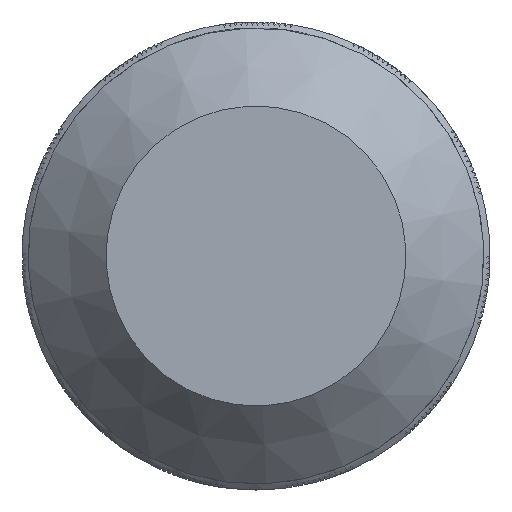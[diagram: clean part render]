
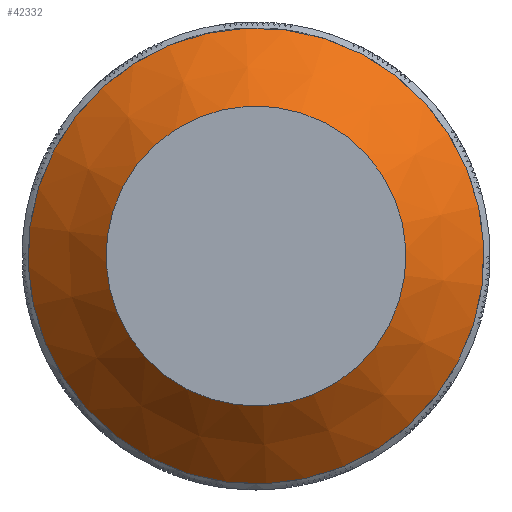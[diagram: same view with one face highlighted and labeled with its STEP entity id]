
A CAD part, left-side view. The second image highlights one B-rep face of the part: STEP entity #42332.
In plain terms, the highlighted conical face has half-angle 45 degrees and reference radius 31.5 mm.
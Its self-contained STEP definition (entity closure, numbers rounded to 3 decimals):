
#42305=CARTESIAN_POINT('',(-24.19,-15.041,0.));
#42306=DIRECTION('',(1.0,0.,0.));
#42307=DIRECTION('',(0.,0.976,-0.218));
#42308=AXIS2_PLACEMENT_3D('',#42305,#42306,#42307);
#42309=CONICAL_SURFACE('',#42308,31.5,45.);
#42310=CARTESIAN_POINT('',(-17.69,22.049,-8.268));
#42311=VERTEX_POINT('',#42310);
#42312=CARTESIAN_POINT('',(-17.69,-15.041,0.));
#42313=DIRECTION('',(1.0,0.,0.));
#42314=DIRECTION('',(0.,0.976,-0.218));
#42315=AXIS2_PLACEMENT_3D('',#42312,#42313,#42314);
#42316=CIRCLE('',#42315,38.);
#42317=EDGE_CURVE('',#42311,#42311,#42316,.T.);
#42318=ORIENTED_EDGE('',*,*,#42317,.F.);
#42319=EDGE_LOOP('',(#42318));
#42320=FACE_OUTER_BOUND('',#42319,.T.);
#42321=CARTESIAN_POINT('',(-30.69,9.36,-5.439));
#42322=VERTEX_POINT('',#42321);
#42323=CARTESIAN_POINT('',(-30.69,-15.041,0.));
#42324=DIRECTION('',(1.,0.,0.));
#42325=DIRECTION('',(0.,0.976,-0.218));
#42326=AXIS2_PLACEMENT_3D('',#42323,#42324,#42325);
#42327=CIRCLE('',#42326,25.0);
#42328=EDGE_CURVE('',#42322,#42322,#42327,.T.);
#42329=ORIENTED_EDGE('',*,*,#42328,.T.);
#42330=EDGE_LOOP('',(#42329));
#42331=FACE_BOUND('',#42330,.T.);
#42332=ADVANCED_FACE('',(#42320,#42331),#42309,.T.);
